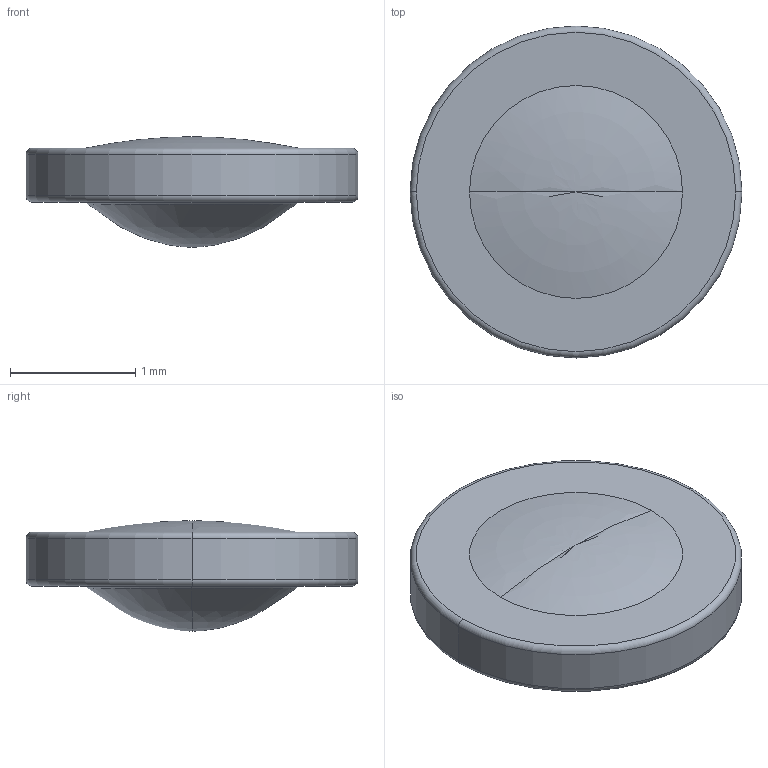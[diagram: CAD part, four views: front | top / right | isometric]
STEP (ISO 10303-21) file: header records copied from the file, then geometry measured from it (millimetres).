
FILE_DESCRIPTION((''),'2;1');
FILE_NAME('352710','2025-06-07T21:44:16',('admin'),('LIGHTPATH'),'CREO PARAMETRIC BY PTC INC, 2024063','CREO PARAMETRIC BY PTC INC, 2024063','');
FILE_SCHEMA(('CONFIG_CONTROL_DESIGN'));
Length unit declared in the file: millimetre
Products named in the file (1): 352710
Bounding box: 2.65 x 2.65 x 0.88 mm (x, y, z)
Volume: 2.9 mm3; surface area: 14.6 mm2
Topology: 1 solids, 1 shells, 14 faces, 30 edges, 16 vertices
Faces by surface type: torus 6, revolution 4, plane 2, cylinder 2
Entity records: 884 total; most frequent: CARTESIAN_POINT 552, DIRECTION 66, ORIENTED_EDGE 52, AXIS2_PLACEMENT_3D 30, EDGE_CURVE 26, CIRCLE 20, VERTEX_POINT 16, EDGE_LOOP 16
